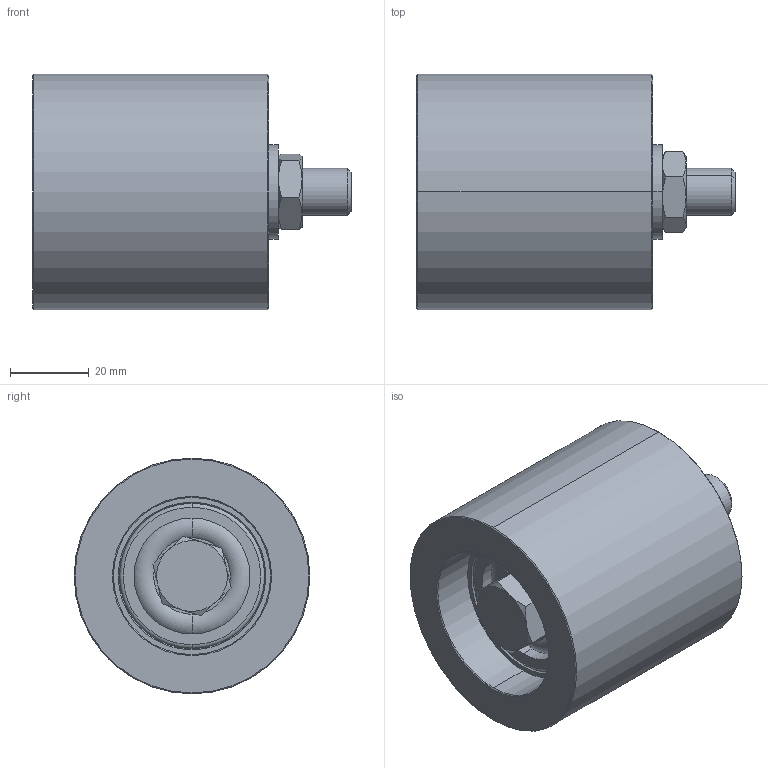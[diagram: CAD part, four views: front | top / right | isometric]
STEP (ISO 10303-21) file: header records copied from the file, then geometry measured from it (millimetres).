
FILE_DESCRIPTION (( 'STEP AP203' ), '1' );
FILE_NAME ('RU 6060 AVP cod. 94040260.STEP', '2017-07-24T15:25:06', ( '' ), ( '' ), 'SwSTEP 2.0', 'SolidWorks 2016', '' );
FILE_SCHEMA (( 'CONFIG_CONTROL_DESIGN' ));
Length unit declared in the file: millimetre
Products named in the file (7): AVP-2976060VS; DIST-6060-INT; ISO 4014 - M12 x 70 x 70-C_ISO 4014 - M12 x 70 x 70-C; SKF - 6301 - 8,SI,NC,8_68_SKF - 6301 - 8,SI,NC,8_68; RU 6060 AVP cod. 94040260; Dado ISO - 4035 - M12 - C_Dado ISO - 4035 - M12 - C; Washer ISO 7089 - 12_Washer ISO 7089 - 12
Assembly tree (7 placements, depth 2):
  RU 6060 AVP cod. 94040260
    AVP-2976060VS
    DIST-6060-INT
    ISO 4014 - M12 x 70 x 70-C_ISO 4014 - M12 x 70 x 70-C
    SKF - 6301 - 8,SI,NC,8_68_SKF - 6301 - 8,SI,NC,8_68  x2
    Dado ISO - 4035 - M12 - C_Dado ISO - 4035 - M12 - C
    Washer ISO 7089 - 12_Washer ISO 7089 - 12
Bounding box: 81 x 60 x 60 mm (x, y, z)
Volume: 143051.2 mm3; surface area: 39126.6 mm2
Topology: 7 solids, 7 shells, 158 faces, 322 edges, 186 vertices
Faces by surface type: cylinder 50, cone 42, plane 40, torus 26
Entity records: 4323 total; most frequent: CARTESIAN_POINT 768, DIRECTION 654, ORIENTED_EDGE 532, AXIS2_PLACEMENT_3D 284, EDGE_CURVE 266, VERTEX_POINT 154, EDGE_LOOP 146, CIRCLE 144
